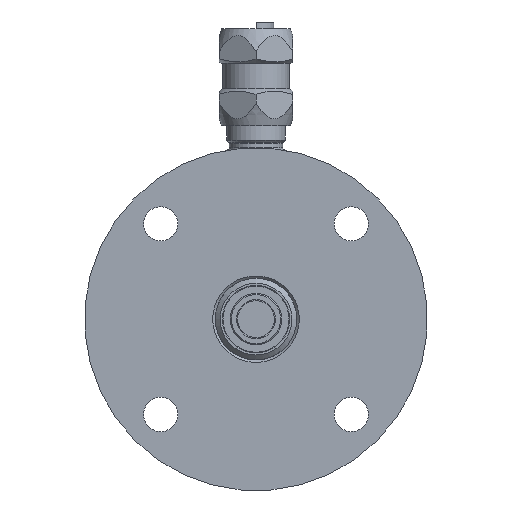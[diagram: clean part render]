
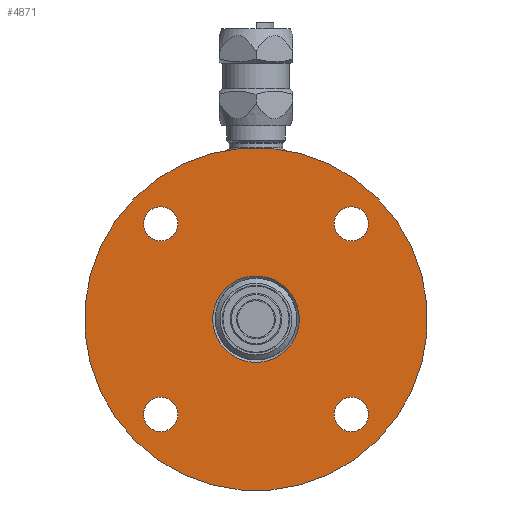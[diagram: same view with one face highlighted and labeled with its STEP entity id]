
A CAD part, left-side view. The second image highlights one B-rep face of the part: STEP entity #4871.
In plain terms, the highlighted planar face has unit normal (-1, 0, 0).
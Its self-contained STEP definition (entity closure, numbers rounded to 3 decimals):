
#4871=ADVANCED_FACE('',(#479634,#479636,#479638,#479640,#479642,#479644),#479646,
.T.);
#479634=FACE_BOUND('',#479635,.T.);
#479635=EDGE_LOOP('',(#518825));
#479636=FACE_BOUND('',#479637,.T.);
#479637=EDGE_LOOP('',(#518826));
#479638=FACE_BOUND('',#479639,.T.);
#479639=EDGE_LOOP('',(#518827));
#479640=FACE_BOUND('',#479641,.T.);
#479641=EDGE_LOOP('',(#518828));
#479642=FACE_BOUND('',#479643,.T.);
#479643=EDGE_LOOP('',(#518829));
#479644=FACE_BOUND('',#479645,.T.);
#479645=EDGE_LOOP('',(#518830));
#479646=PLANE('',#479647);
#479647=AXIS2_PLACEMENT_3D('',#479648,#479649,#479650);
#479648=CARTESIAN_POINT('',(-35.,0.,0.));
#479649=DIRECTION('',(-1.,0.,0.));
#479650=DIRECTION('',(0.,0.707,-0.707));
#518825=ORIENTED_EDGE('',*,*,#533750,.T.);
#518826=ORIENTED_EDGE('',*,*,#533805,.T.);
#518827=ORIENTED_EDGE('',*,*,#533754,.T.);
#518828=ORIENTED_EDGE('',*,*,#533753,.T.);
#518829=ORIENTED_EDGE('',*,*,#533752,.T.);
#518830=ORIENTED_EDGE('',*,*,#533751,.T.);
#533750=EDGE_CURVE('',#556265,#556265,#556266,.T.);
#533751=EDGE_CURVE('',#556267,#556267,#556268,.F.);
#533752=EDGE_CURVE('',#556269,#556269,#556270,.F.);
#533753=EDGE_CURVE('',#556271,#556271,#556272,.F.);
#533754=EDGE_CURVE('',#556273,#556273,#556274,.F.);
#533805=EDGE_CURVE('',#556355,#556355,#556356,.T.);
#556265=VERTEX_POINT('',#634065);
#556266=CIRCLE('',#634066,70.);
#556267=VERTEX_POINT('',#634070);
#556268=CIRCLE('',#634071,7.);
#556269=VERTEX_POINT('',#634075);
#556270=CIRCLE('',#634076,7.);
#556271=VERTEX_POINT('',#634080);
#556272=CIRCLE('',#634081,7.);
#556273=VERTEX_POINT('',#634085);
#556274=CIRCLE('',#634086,7.);
#556355=VERTEX_POINT('',#634274);
#556356=CIRCLE('',#634275,17.646);
#634065=CARTESIAN_POINT('',(-35.,49.497,-49.497));
#634066=AXIS2_PLACEMENT_3D('',#634067,#634068,#634069);
#634067=CARTESIAN_POINT('',(-35.,0.,0.));
#634068=DIRECTION('',(-1.,0.,0.));
#634069=DIRECTION('',(0.,0.707,-0.707));
#634070=CARTESIAN_POINT('',(-35.,-33.941,33.941));
#634071=AXIS2_PLACEMENT_3D('',#634072,#634073,#634074);
#634072=CARTESIAN_POINT('',(-35.,-38.891,38.891));
#634073=DIRECTION('',(-1.,0.,0.));
#634074=DIRECTION('',(0.,0.707,-0.707));
#634075=CARTESIAN_POINT('',(-35.,43.841,33.941));
#634076=AXIS2_PLACEMENT_3D('',#634077,#634078,#634079);
#634077=CARTESIAN_POINT('',(-35.,38.891,38.891));
#634078=DIRECTION('',(-1.,0.,0.));
#634079=DIRECTION('',(0.,0.707,-0.707));
#634080=CARTESIAN_POINT('',(-35.,43.841,-43.841));
#634081=AXIS2_PLACEMENT_3D('',#634082,#634083,#634084);
#634082=CARTESIAN_POINT('',(-35.,38.891,-38.891));
#634083=DIRECTION('',(-1.,0.,0.));
#634084=DIRECTION('',(0.,0.707,-0.707));
#634085=CARTESIAN_POINT('',(-35.,-33.941,-43.841));
#634086=AXIS2_PLACEMENT_3D('',#634087,#634088,#634089);
#634087=CARTESIAN_POINT('',(-35.,-38.891,-38.891));
#634088=DIRECTION('',(-1.,0.,0.));
#634089=DIRECTION('',(0.,0.707,-0.707));
#634274=CARTESIAN_POINT('',(-35.,12.478,12.478));
#634275=AXIS2_PLACEMENT_3D('',#634276,#634277,#634278);
#634276=CARTESIAN_POINT('',(-35.,0.,0.));
#634277=DIRECTION('',(1.,0.,0.));
#634278=DIRECTION('',(0.,0.707,0.707));
